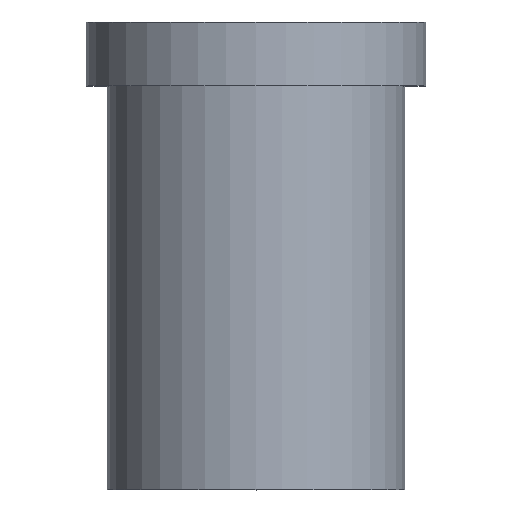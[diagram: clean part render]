
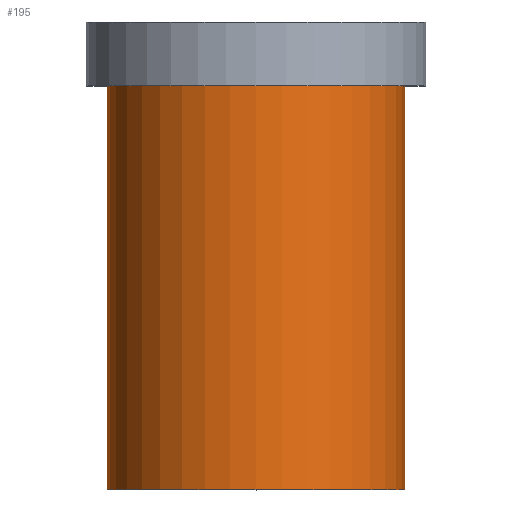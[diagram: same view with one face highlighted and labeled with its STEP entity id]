
A CAD part, top view. The second image highlights one B-rep face of the part: STEP entity #195.
In plain terms, the highlighted cylindrical face has radius 7 mm (diameter 14 mm), a full revolution.
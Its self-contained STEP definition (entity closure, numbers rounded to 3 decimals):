
#32=ORIENTED_EDGE('',*,*,#50,.T.);
#33=ORIENTED_EDGE('',*,*,#49,.F.);
#49=EDGE_CURVE('',#59,#59,#69,.T.);
#50=EDGE_CURVE('',#60,#60,#70,.T.);
#59=VERTEX_POINT('',#280);
#60=VERTEX_POINT('',#283);
#69=CIRCLE('',#213,7.);
#70=CIRCLE('',#215,7.);
#82=EDGE_LOOP('',(#32));
#83=EDGE_LOOP('',(#33));
#102=FACE_BOUND('',#82,.T.);
#103=FACE_BOUND('',#83,.T.);
#117=CYLINDRICAL_SURFACE('',#214,7.);
#195=ADVANCED_FACE('',(#102,#103),#117,.T.);
#213=AXIS2_PLACEMENT_3D('',#279,#241,#242);
#214=AXIS2_PLACEMENT_3D('',#281,#243,#244);
#215=AXIS2_PLACEMENT_3D('',#282,#245,#246);
#241=DIRECTION('',(0.,-1.,0.));
#242=DIRECTION('',(0.,0.,-1.));
#243=DIRECTION('',(0.,-1.,0.));
#244=DIRECTION('',(0.,0.,-1.));
#245=DIRECTION('',(0.,-1.,0.));
#246=DIRECTION('',(0.,0.,-1.));
#279=CARTESIAN_POINT('',(0.,0.,0.));
#280=CARTESIAN_POINT('',(0.,0.,-7.));
#281=CARTESIAN_POINT('',(0.,0.,0.));
#282=CARTESIAN_POINT('',(0.,19.,0.));
#283=CARTESIAN_POINT('',(0.,19.,-7.));
